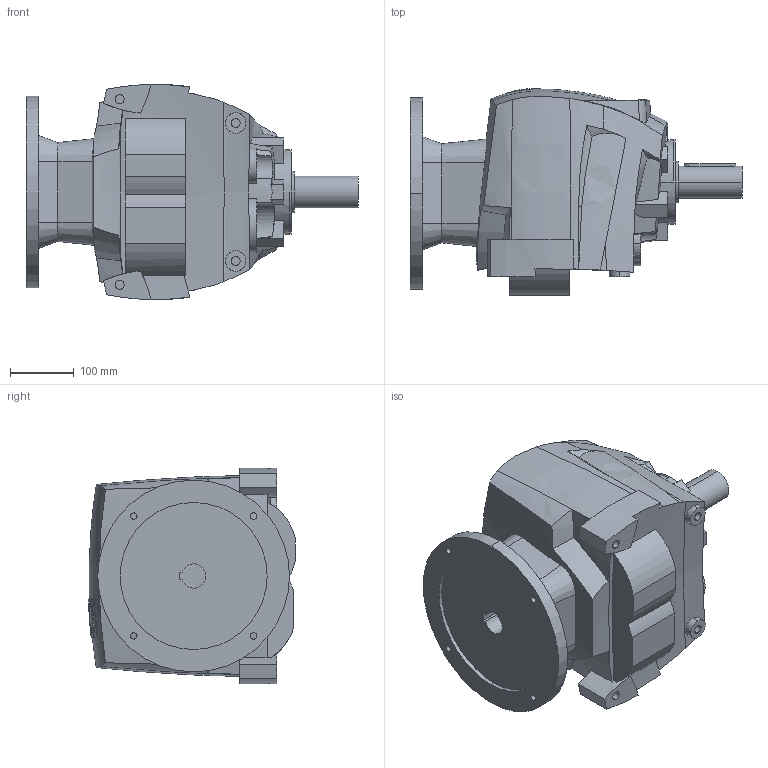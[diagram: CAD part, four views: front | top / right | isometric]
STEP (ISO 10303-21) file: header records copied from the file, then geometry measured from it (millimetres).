
FILE_DESCRIPTION((''),'2;1');
FILE_NAME('R50_UNV_PAM132','2013-12-18T',('Luca'),(''),'PRO/ENGINEER BY PARAMETRIC TECHNOLOGY CORPORATION, 2008230','PRO/ENGINEER BY PARAMETRIC TECHNOLOGY CORPORATION, 2008230','');
FILE_SCHEMA(('CONFIG_CONTROL_DESIGN'));
Length unit declared in the file: millimetre
Products named in the file (1): R50_UNV_PAM132
Bounding box: 519.5 x 323.71 x 336.87 mm (x, y, z)
Volume: 24347158 mm3; surface area: 682539.1 mm2
Topology: 1 solids, 1 shells, 397 faces, 1085 edges, 725 vertices
Faces by surface type: plane 168, cylinder 113, bspline 96, cone 13, torus 7
Entity records: 20178 total; most frequent: CARTESIAN_POINT 10905, ORIENTED_EDGE 2166, DIRECTION 1507, EDGE_CURVE 1083, VERTEX_POINT 725, AXIS2_PLACEMENT_3D 511, VECTOR 485, LINE 485
